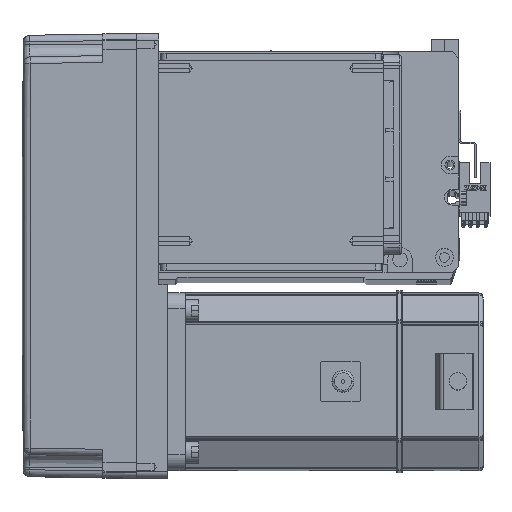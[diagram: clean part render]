
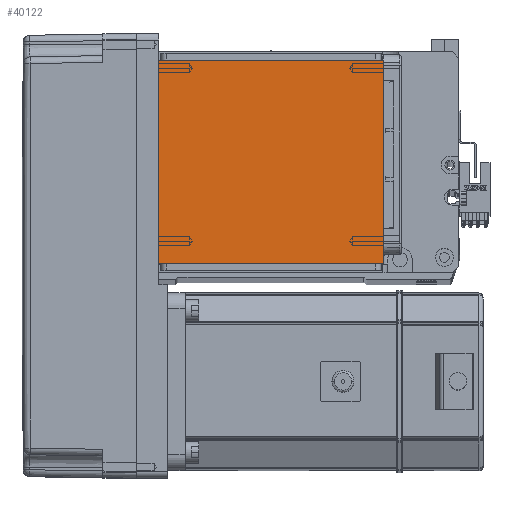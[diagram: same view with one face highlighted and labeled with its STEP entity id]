
A CAD part, top view. The second image highlights one B-rep face of the part: STEP entity #40122.
In plain terms, the highlighted planar face has unit normal (0, 0, 1).
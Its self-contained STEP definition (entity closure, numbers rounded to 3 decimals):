
#48 = VECTOR ( 'NONE', #57982, 1000. ) ;
#836 = VERTEX_POINT ( 'NONE', #53840 ) ;
#1879 = EDGE_LOOP ( 'NONE', ( #54311, #23941, #12493, #58830 ) ) ;
#2158 = VECTOR ( 'NONE', #30999, 1000. ) ;
#4383 = LINE ( 'NONE', #39443, #48 ) ;
#5887 = EDGE_CURVE ( 'NONE', #7921, #34305, #22808, .T. ) ;
#7921 = VERTEX_POINT ( 'NONE', #49063 ) ;
#10622 = VECTOR ( 'NONE', #59044, 1000. ) ;
#12493 = ORIENTED_EDGE ( 'NONE', *, *, #13145, .F. ) ;
#12885 = LINE ( 'NONE', #49367, #2158 ) ;
#13145 = EDGE_CURVE ( 'NONE', #36098, #836, #28090, .T. ) ;
#16665 = DIRECTION ( 'NONE',  ( 0., 0., 1. ) ) ;
#21271 = DIRECTION ( 'NONE',  ( 1., 0., 0. ) ) ;
#22808 = LINE ( 'NONE', #50384, #10622 ) ;
#23798 = EDGE_CURVE ( 'NONE', #7921, #836, #12885, .T. ) ;
#23941 = ORIENTED_EDGE ( 'NONE', *, *, #23798, .T. ) ;
#28090 = LINE ( 'NONE', #29639, #45380 ) ;
#29253 = DIRECTION ( 'NONE',  ( -1., 0., 0. ) ) ;
#29397 = EDGE_CURVE ( 'NONE', #36098, #34305, #4383, .T. ) ;
#29639 = CARTESIAN_POINT ( 'NONE',  ( -70.004, 20., 115. ) ) ;
#30316 = CARTESIAN_POINT ( 'NONE',  ( 50.5, 111.5, 115. ) ) ;
#30999 = DIRECTION ( 'NONE',  ( 0., -1., 0. ) ) ;
#34305 = VERTEX_POINT ( 'NONE', #30316 ) ;
#35104 = CARTESIAN_POINT ( 'NONE',  ( 0., 0., 115. ) ) ;
#36098 = VERTEX_POINT ( 'NONE', #52417 ) ;
#37156 = AXIS2_PLACEMENT_3D ( 'NONE', #35104, #16665, #21271 ) ;
#39443 = CARTESIAN_POINT ( 'NONE',  ( 50.5, 122., 115. ) ) ;
#40122 = ADVANCED_FACE ( 'NONE', ( #51788 ), #57887, .T. ) ;
#45380 = VECTOR ( 'NONE', #29253, 1000. ) ;
#49063 = CARTESIAN_POINT ( 'NONE',  ( -50.5, 111.5, 115. ) ) ;
#49367 = CARTESIAN_POINT ( 'NONE',  ( -50.5, 122., 115. ) ) ;
#50384 = CARTESIAN_POINT ( 'NONE',  ( -70.004, 111.5, 115. ) ) ;
#51788 = FACE_OUTER_BOUND ( 'NONE', #1879, .T. ) ;
#52417 = CARTESIAN_POINT ( 'NONE',  ( 50.5, 20., 115. ) ) ;
#53840 = CARTESIAN_POINT ( 'NONE',  ( -50.5, 20., 115. ) ) ;
#54311 = ORIENTED_EDGE ( 'NONE', *, *, #5887, .F. ) ;
#57887 = PLANE ( 'NONE',  #37156 ) ;
#57982 = DIRECTION ( 'NONE',  ( 0., 1., 0. ) ) ;
#58830 = ORIENTED_EDGE ( 'NONE', *, *, #29397, .T. ) ;
#59044 = DIRECTION ( 'NONE',  ( 1., 0., 0. ) ) ;
